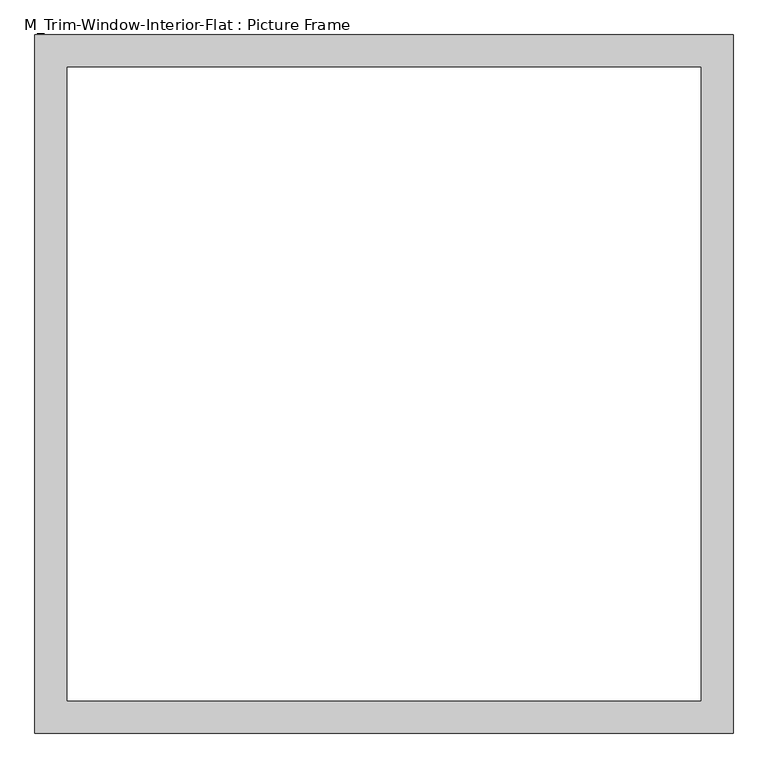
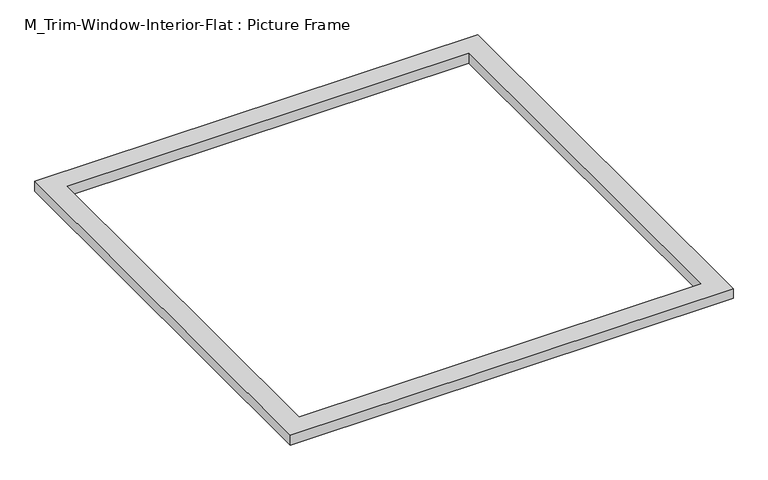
"""IFC4 building model written with IfcOpenShell, lengths in millimetres: proxy geometry, M_Trim-Window-Interior-Flat : Picture Frame."""

from ifc_helpers import new_model, si_unit, origin, origin_with_axes, place, context, project, spatial, polyline, outline, extrude, source, transform, mapped, element, save


def m_trim_window_interior_flat_picture_frame_af1161c0(model_context):
    return source(origin(), model_context, "Body", "SweptSolid", [
        extrude(outline(polyline([(647.3, 47.3), (647.3, -1247.3), (-647.3, -1247.3), (-647.3, 47.3), (647.3, 47.3)]), holes=[polyline([(587.3, -12.7), (-587.3, -12.7), (-587.3, -1187.3), (587.3, -1187.3), (587.3, -12.7)])]), origin_with_axes(), (0.0, 0.0, 1.0), 30.0),
    ])


if __name__ == "__main__":
    model = new_model("IFC4")
    model_context = context("Model", 3, world=origin())
    ifc_project = project(units=[si_unit("LENGTHUNIT", "METRE", prefix="MILLI")], contexts=[model_context])
    site = spatial("IfcSite", under=ifc_project)
    building = spatial("IfcBuilding", under=site)
    placement = place(None, origin())
    m_trim_window_interior_flat_picture_frame_shape = m_trim_window_interior_flat_picture_frame_af1161c0(model_context)
    element("IfcBuildingElementProxy", 1, Name="M_Trim-Window-Interior-Flat : Picture Frame", ObjectType="M_Trim-Window-Interior-Flat : Picture Frame", at=placement, inside=building, context=model_context, shape_type="MappedRepresentation", body=[
        mapped(m_trim_window_interior_flat_picture_frame_shape, transform((0.0, 0.0, 0.0), x_axis=(1.0, 0.0, 0.0), y_axis=(0.0, 1.0, 0.0), z_axis=(0.0, 0.0, 1.0))),
    ])
    save(model, "model.ifc")
